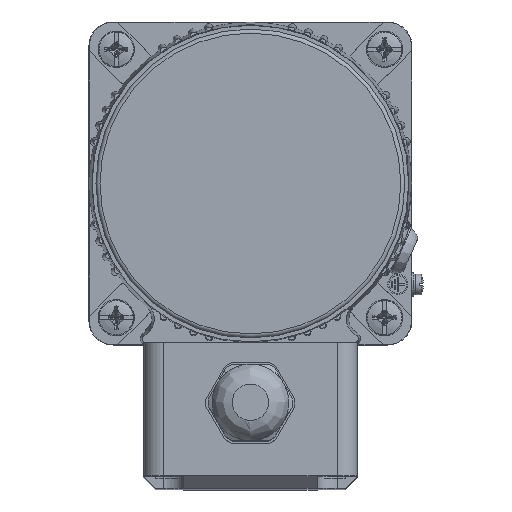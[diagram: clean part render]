
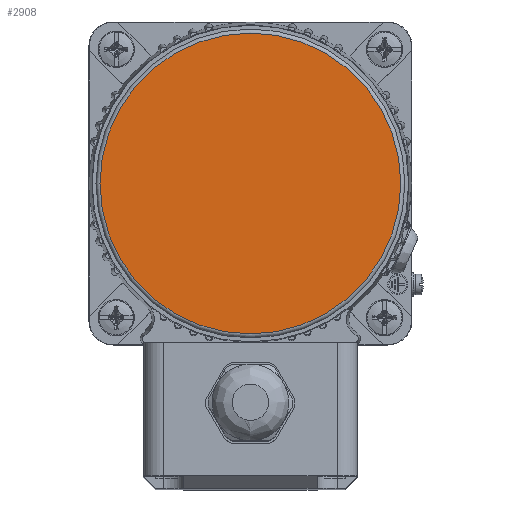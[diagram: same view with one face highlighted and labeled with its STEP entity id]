
A CAD part, left-side view. The second image highlights one B-rep face of the part: STEP entity #2908.
In plain terms, the highlighted planar face has unit normal (-1, 0, 0).
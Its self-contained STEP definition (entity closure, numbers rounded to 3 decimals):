
#2908=ADVANCED_FACE('',(#3934),#3271,.F.);
#3271=PLANE('',#15374);
#3934=FACE_OUTER_BOUND('',#4963,.T.);
#4963=EDGE_LOOP('',(#8666));
#8666=ORIENTED_EDGE('',*,*,#11912,.T.);
#10137=VERTEX_POINT('',#24344);
#11912=EDGE_CURVE('',#10137,#10137,#14234,.T.);
#14234=CIRCLE('',#15096,37.25);
#15096=AXIS2_PLACEMENT_3D('',#24343,#17205,#17206);
#15374=AXIS2_PLACEMENT_3D('',#32368,#17838,#17839);
#17205=DIRECTION('',(-1.,0.,0.));
#17206=DIRECTION('',(0.,0.,-1.));
#17838=DIRECTION('',(1.,0.,0.));
#17839=DIRECTION('',(0.,0.,-1.));
#24343=CARTESIAN_POINT('',(-86.,40.,40.));
#24344=CARTESIAN_POINT('',(-86.,40.,2.75));
#32368=CARTESIAN_POINT('',(-86.,40.,78.25));
